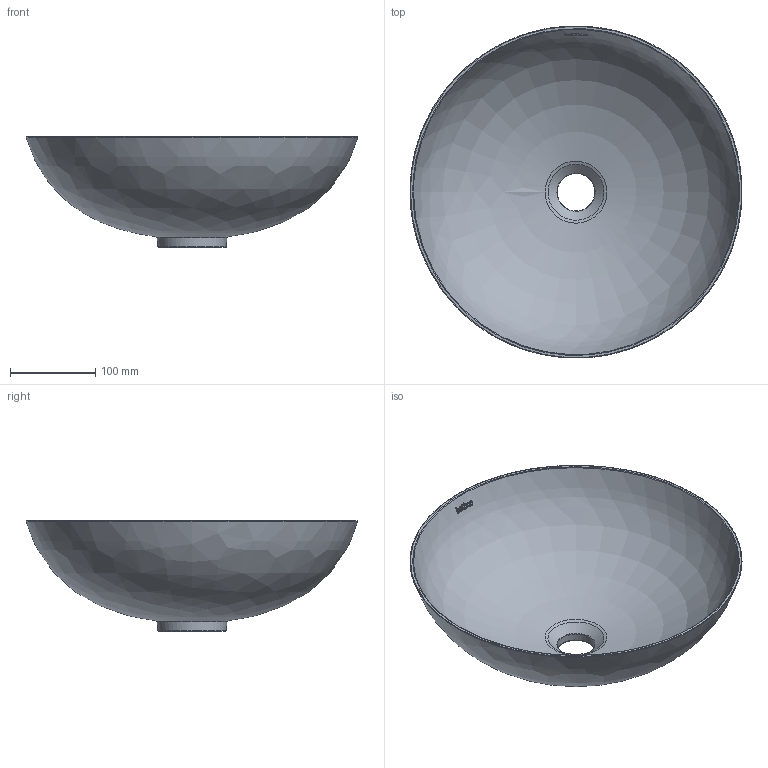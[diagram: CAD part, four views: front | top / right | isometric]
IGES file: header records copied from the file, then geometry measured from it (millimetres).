
Global section: file name: D:\Renovando Conceptos\Trabajos Varios\BathCo\47 Biblioteca Lavabos 3D\8305_8322_Denia\8305_8322_Denia.igs; native system: Rhinoceros ( Feb 26 2015 ); preprocessor: Trout Lake IGES 012 Feb 26 2015; date: 200506.070014; units: millimetre
Bounding box: 389.59 x 389.53 x 130 mm (x, y, z)
Surface area: 344146.3 mm2 (no closed solid volume)
Topology: 0 solids, 0 shells, 79 faces, 503 edges, 486 vertices
Faces by surface type: bspline 79
